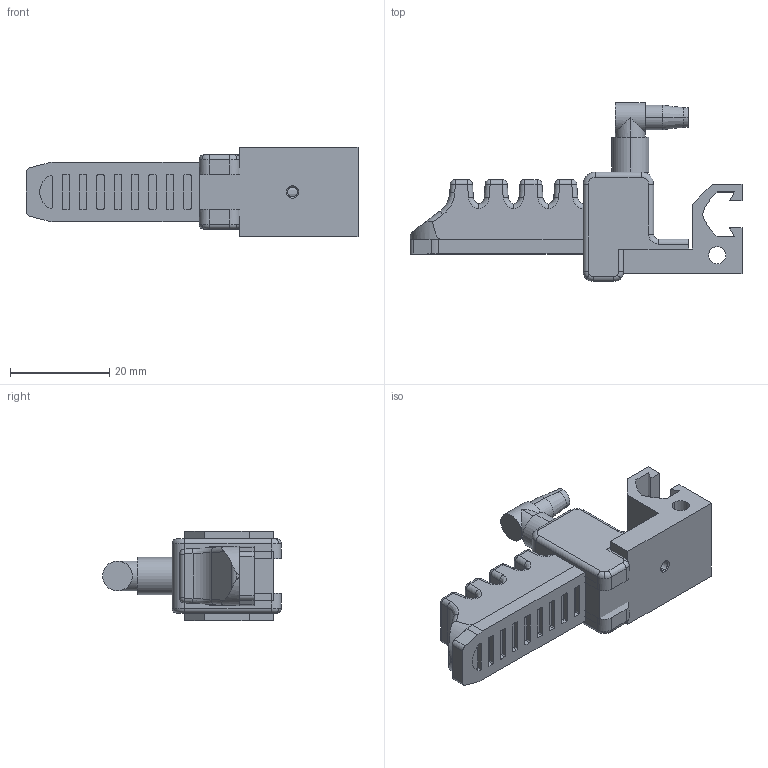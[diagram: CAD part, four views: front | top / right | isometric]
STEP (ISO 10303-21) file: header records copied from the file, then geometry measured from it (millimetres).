
FILE_DESCRIPTION (( 'STEP AP214' ), '1' );
FILE_NAME ('GFM-C5V5.STEP', '2019-12-04T05:56:51', ( '微软用户' ), ( '微软中国' ), 'SwSTEP 2.0', 'SolidWorks 2016', '' );
FILE_SCHEMA (( 'AUTOMOTIVE_DESIGN' ));
Length unit declared in the file: millimetre
Products named in the file (1): GFM-C5V5
Bounding box: 66.85 x 36 x 18 mm (x, y, z)
Volume: 12337.9 mm3; surface area: 8863 mm2
Topology: 4 solids, 4 shells, 326 faces, 785 edges, 480 vertices
Faces by surface type: cylinder 146, plane 122, sphere 18, bspline 18, torus 14, cone 8
Entity records: 14344 total; most frequent: CARTESIAN_POINT 3131, DIRECTION 1611, ORIENTED_EDGE 1570, EDGE_CURVE 785, AXIS2_PLACEMENT_3D 588, VERTEX_POINT 480, VECTOR 435, LINE 435
